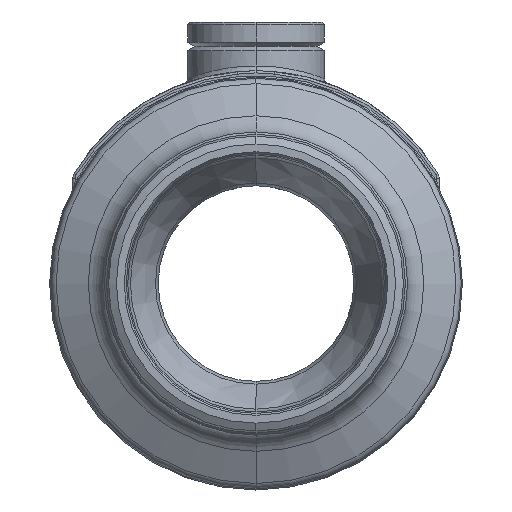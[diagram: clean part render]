
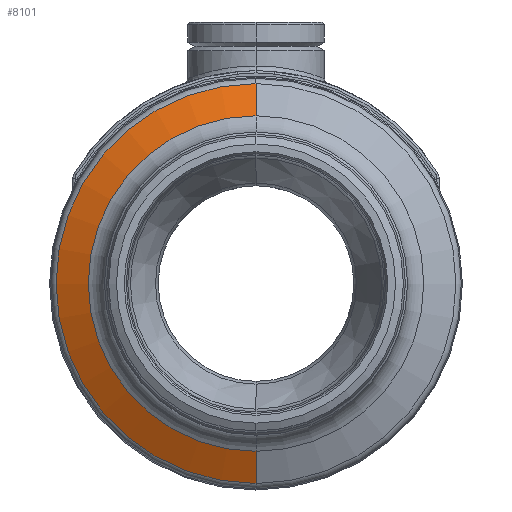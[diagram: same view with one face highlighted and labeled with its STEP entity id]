
A CAD part, left-side view. The second image highlights one B-rep face of the part: STEP entity #8101.
In plain terms, the highlighted conical face has half-angle 63.435 degrees and reference radius 37.606 mm.
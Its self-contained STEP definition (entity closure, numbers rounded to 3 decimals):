
#1787=CARTESIAN_POINT('',(-33.053,0.,0.));
#1788=DIRECTION('',(1.,0.,0.));
#1789=DIRECTION('',(0.,0.,-1.));
#1790=AXIS2_PLACEMENT_3D('',#1787,#1788,#1789);
#1792=DIRECTION('',(0.447,0.,0.894));
#1793=VECTOR('',#1792,7.354);
#1794=CARTESIAN_POINT('',(-36.342,0.,34.317));
#1795=LINE('',#1794,#1793);
#1796=CARTESIAN_POINT('',(-36.342,0.,0.));
#1797=DIRECTION('',(-1.,0.,0.));
#1798=DIRECTION('',(0.,0.,1.));
#1799=AXIS2_PLACEMENT_3D('',#1796,#1797,#1798);
#1801=DIRECTION('',(0.447,0.,-0.894));
#1802=VECTOR('',#1801,7.354);
#1803=CARTESIAN_POINT('',(-36.342,0.,-34.317));
#1804=LINE('',#1803,#1802);
#5722=CARTESIAN_POINT('',(-33.053,0.,40.894));
#5723=CARTESIAN_POINT('',(-33.053,0.,-40.894));
#5724=VERTEX_POINT('',#5722);
#5725=VERTEX_POINT('',#5723);
#5726=CARTESIAN_POINT('',(-36.342,0.,34.317));
#5727=VERTEX_POINT('',#5726);
#5728=CARTESIAN_POINT('',(-36.342,0.,-34.317));
#5729=VERTEX_POINT('',#5728);
#8087=CARTESIAN_POINT('',(-34.697,0.,0.));
#8088=DIRECTION('',(1.,0.,0.));
#8089=DIRECTION('',(0.,0.,1.));
#8090=AXIS2_PLACEMENT_3D('',#8087,#8088,#8089);
#8091=CONICAL_SURFACE('',#8090,37.606,63.435);
#8092=ORIENTED_EDGE('',*,*,#8081,.T.);
#8094=ORIENTED_EDGE('',*,*,#8093,.F.);
#8096=ORIENTED_EDGE('',*,*,#8095,.T.);
#8098=ORIENTED_EDGE('',*,*,#8097,.T.);
#8099=EDGE_LOOP('',(#8092,#8094,#8096,#8098));
#8100=FACE_OUTER_BOUND('',#8099,.F.);
#8101=ADVANCED_FACE('',(#8100),#8091,.T.);
#1791=CIRCLE('',#1790,40.894);
#1800=CIRCLE('',#1799,34.317);
#8081=EDGE_CURVE('',#5725,#5724,#1791,.T.);
#8093=EDGE_CURVE('',#5727,#5724,#1795,.T.);
#8095=EDGE_CURVE('',#5727,#5729,#1800,.T.);
#8097=EDGE_CURVE('',#5729,#5725,#1804,.T.);
